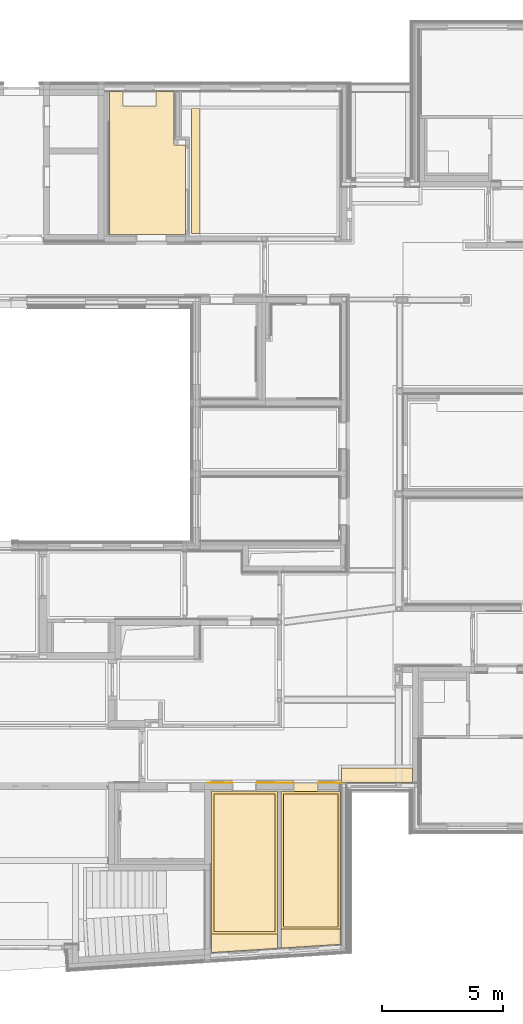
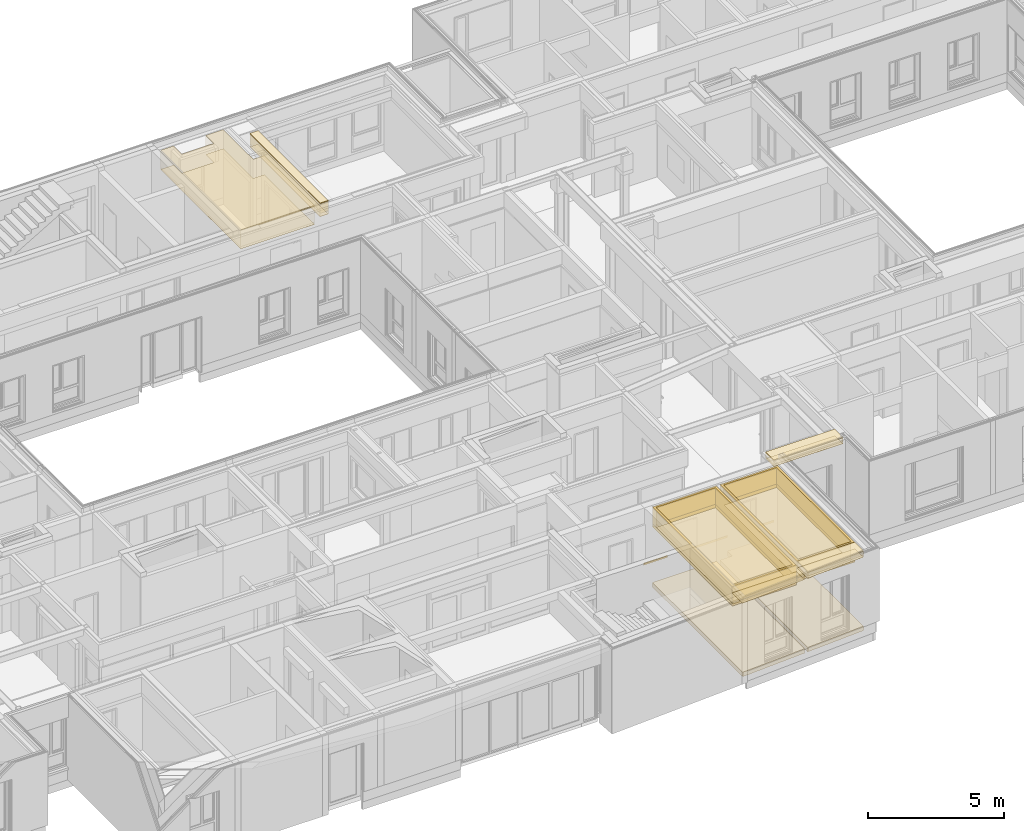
# One storey, part 177 of 207: 39 coverings.
"""IFC4 building model written with IfcOpenShell, lengths in metres."""

from ifc_helpers import new_model, entity, si_unit, converted_unit, derived_unit, frame, frame_2d, origin, origin_with_axes, place, context, subcontext, project, spatial, polyline, rectangle, outline, extrude, material, layer, layer_set, layer_usage, element, save


model = new_model("IFC4")

# Units and contexts
model_context = context("Model", 3, precision=1e-05, world=origin())
body_context = subcontext(model_context, "Body", "Model", "MODEL_VIEW")
ifc_project = project(units=[si_unit("LENGTHUNIT", "METRE"), si_unit("AREAUNIT", "SQUARE_METRE"), si_unit("VOLUMEUNIT", "CUBIC_METRE"), si_unit("MASSUNIT", "GRAM", prefix="KILO"), converted_unit("PLANEANGLEUNIT", "DEGREE", entity("IfcPlaneAngleMeasure", 0.0174532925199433), si_unit("PLANEANGLEUNIT", "RADIAN"), dimensions=[0, 0, 0, 0, 0, 0, 0]), derived_unit("THERMALTRANSMITTANCEUNIT", [(si_unit("POWERUNIT", "WATT"), 1), (si_unit("THERMODYNAMICTEMPERATUREUNIT", "KELVIN"), -1), (si_unit("LENGTHUNIT", "METRE"), -2)]), derived_unit("VOLUMETRICFLOWRATEUNIT", [(si_unit("LENGTHUNIT", "METRE"), 3), (converted_unit("TIMEUNIT", "hour", entity("IfcTimeMeasure", 3600.0), si_unit("TIMEUNIT", "SECOND"), dimensions=[0, 0, 1, 0, 0, 0, 0]), -1), (si_unit("LENGTHUNIT", "METRE"), -1)])], contexts=[model_context])

# Site, building, storey, space
site_placement = place(None, origin())
site = spatial("IfcSite", under=ifc_project, at=site_placement, Name="Psychiatrie Neubau Wunstorf", CompositionType="ELEMENT")
building_placement = place(site_placement, origin())
building = spatial("IfcBuilding", under=site, at=building_placement, Name="Neubau H2 Stationsgebäude", CompositionType="ELEMENT")
storey_placement = place(building_placement, frame((0.0, 0.0, -0.2)))
storey = spatial("IfcBuildingStorey", under=building, at=storey_placement, Name="H2 Ebene 0", CompositionType="ELEMENT", Elevation=-0.2)
space_1_placement = place(storey_placement, frame((59.7893138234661, 0.53600244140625, 0.0)))
space_1 = spatial("IfcSpace", under=storey, at=space_1_placement, Name="WUN-H2-E00-F07", CompositionType="ELEMENT")

# Coverings
ifc_material_1 = material(Name="97")
ifc_layer_1 = layer(ifc_material_1, 0.001)
ifc_layer_set_1 = layer_set([ifc_layer_1])
ifc_layer_usage_1 = layer_usage(ifc_layer_set_1, "AXIS3", "POSITIVE", 0.0)
covering_1_placement = place(space_1_placement, frame((2.5954798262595, 0.0, 0.8)))
element("IfcCovering", 1, at=covering_1_placement, inside=space_1, material=ifc_layer_usage_1, Name="Handlauf", PredefinedType="CLADDING", context=body_context, shape_type="SweptSolid", body=[
    extrude(rectangle(XDim=0.965, YDim=0.1, at=frame_2d((-0.4825, 0.05), x_axis=(-1.0, -1.17810194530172e-16))), frame((5.51520635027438, 0.0, 0.1), z_axis=(-8.71795439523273e-15, 1.0, 0.0), x_axis=(1.0, 8.71795439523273e-15, 0.0)), (0.0, 0.0, 1.0), 0.001),
    extrude(rectangle(XDim=0.1, YDim=0.99943192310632, at=frame_2d((-0.499715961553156, -0.05), x_axis=(7.27595761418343e-14, -1.0))), frame((0.999431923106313, 0.0, 0.0), z_axis=(-8.70198648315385e-15, 1.0, 5.68434188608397e-16), x_axis=(1.0, 8.70198648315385e-15, 0.0)), (0.0, 0.0, 1.0), 0.001),
    extrude(rectangle(XDim=0.1, YDim=1.53077442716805, at=frame_2d((-0.765387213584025, -0.05), x_axis=(0.0, -1.0))), frame((3.54020635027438, 0.0, 0.0), z_axis=(-8.72643493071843e-15, 1.0, -5.68434188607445e-16), x_axis=(1.0, 8.72643493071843e-15, 0.0)), (0.0, 0.0, 1.0), 0.001),
])
ifc_material_2 = material()
ifc_layer_2 = layer(ifc_material_2, 0.036)
ifc_layer_set_2 = layer_set([ifc_layer_2])
ifc_layer_usage_2 = layer_usage(ifc_layer_set_2, "AXIS3", "POSITIVE", 0.0)
covering_2_placement = place(space_1_placement, frame((8.11068617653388, 0.0, 3.6)))
element("IfcCovering", 2, at=covering_2_placement, inside=space_1, material=ifc_layer_usage_2, Name="Gipsfaserplatten 2-lagig (BSK)", PredefinedType="CEILING", context=body_context, shape_type="SweptSolid", body=[
    extrude(rectangle(XDim=2.93549999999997, YDim=0.598997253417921, at=frame_2d((1.46774999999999, 0.29949862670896), x_axis=(1.0, 0.0))), frame((0.0, 0.598997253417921, 0.0), z_axis=(0.0, 0.0, -1.0), x_axis=(1.0, 0.0, 0.0)), (0.0, 0.0, 1.0), 0.036),
])
ifc_material_3 = material(Name="Installationshöhe")
ifc_layer_3 = layer(ifc_material_3, 0.164)
ifc_layer_set_3 = layer_set([ifc_layer_3])
ifc_layer_usage_3 = layer_usage(ifc_layer_set_3, "AXIS3", "POSITIVE", 0.0)
covering_3_placement = place(space_1_placement, frame((8.11068617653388, 0.0, 3.564)))
element("IfcCovering", 3, at=covering_3_placement, inside=space_1, material=ifc_layer_usage_3, Name="Gipsfaserplatten 2-lagig (BSK)", PredefinedType="CEILING", context=body_context, shape_type="SweptSolid", body=[
    extrude(rectangle(XDim=2.93549999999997, YDim=0.598997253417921, at=frame_2d((1.46774999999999, 0.29949862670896), x_axis=(1.0, 0.0))), frame((0.0, 0.598997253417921, 0.0), z_axis=(0.0, 0.0, -1.0), x_axis=(1.0, 0.0, 0.0)), (0.0, 0.0, 1.0), 0.164),
])
ifc_material_4 = material(Name="A1")
ifc_layer_4 = layer(ifc_material_4, 0.1)
ifc_layer_set_4 = layer_set([ifc_layer_4])
ifc_layer_usage_4 = layer_usage(ifc_layer_set_4, "AXIS3", "POSITIVE", 0.0)
covering_4_placement = place(space_1_placement, frame((8.11068617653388, 0.0, 3.4)))
element("IfcCovering", 4, at=covering_4_placement, inside=space_1, material=ifc_layer_usage_4, Name="Gipsfaserplatten 2-lagig (BSK)", PredefinedType="CEILING", context=body_context, shape_type="SweptSolid", body=[
    extrude(rectangle(XDim=2.93549999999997, YDim=0.598997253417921, at=frame_2d((1.46774999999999, 0.29949862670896), x_axis=(1.0, 0.0))), frame((0.0, 0.598997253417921, 0.0), z_axis=(0.0, 0.0, -1.0), x_axis=(1.0, 0.0, 0.0)), (0.0, 0.0, 1.0), 0.1),
])
ifc_material_5 = material(Name="D1")
ifc_layer_5 = layer(ifc_material_5, 0.001)
ifc_layer_set_5 = layer_set([ifc_layer_5])
ifc_layer_usage_5 = layer_usage(ifc_layer_set_5, "AXIS3", "POSITIVE", 0.0)
covering_5_placement = place(space_1_placement, frame((8.11068617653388, 0.0, 3.3)))
element("IfcCovering", 5, at=covering_5_placement, inside=space_1, material=ifc_layer_usage_5, Name="Gipsfaserplatten 2-lagig (BSK)", PredefinedType="CEILING", context=body_context, shape_type="SweptSolid", body=[
    extrude(rectangle(XDim=2.93549999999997, YDim=0.598997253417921, at=frame_2d((1.46774999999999, 0.29949862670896), x_axis=(1.0, 0.0))), frame((0.0, 0.598997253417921, 0.0), z_axis=(0.0, 0.0, -1.0), x_axis=(1.0, 0.0, 0.0)), (0.0, 0.0, 1.0), 0.001),
])

# Space
space_2_placement = place(storey_placement, frame((65.4, -6.29761267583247, 0.0)))
space_2 = spatial("IfcSpace", under=storey, at=space_2_placement, Name="WUN-H2-E00-060", CompositionType="ELEMENT")

# Coverings
ifc_material_6 = material(Name="Ku1")
ifc_layer_6 = layer(ifc_material_6, 0.2)
ifc_layer_set_6 = layer_set([ifc_layer_6])
ifc_layer_usage_6 = layer_usage(ifc_layer_set_6, "AXIS3", "POSITIVE", 0.0)
covering_6_placement = place(space_2_placement, origin())
element("IfcCovering", 6, at=covering_6_placement, inside=space_2, material=ifc_layer_usage_6, Name="PVC Bahnenware Holzoptik", PredefinedType="FLOORING", context=body_context, shape_type="SweptSolid", body=[
    extrude(rectangle(XDim=0.365, YDim=1.01, at=frame_2d((0.505, -0.1825), x_axis=(0.0, -1.0))), frame((0.525000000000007, 6.83361511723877, 0.0), z_axis=(0.0, 0.0, 1.0), x_axis=(1.0, 0.0, 0.0)), (0.0, 0.0, 1.0), 0.2),
    extrude(outline(polyline([(2.45250000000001, 6.46861511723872), (0.0, 6.46861511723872), (0.0, 0.0), (2.45250000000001, 0.157496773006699), (2.45250000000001, 6.46861511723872)])), origin_with_axes(), (0.0, 0.0, 1.0), 0.2),
])
ifc_material_7 = material()
ifc_layer_7 = layer(ifc_material_7, 0.036)
ifc_layer_set_7 = layer_set([ifc_layer_7])
ifc_layer_usage_7 = layer_usage(ifc_layer_set_7, "AXIS3", "POSITIVE", 0.0)
covering_7_placement = place(space_2_placement, frame((0.100000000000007, 0.883612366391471, 3.6)))
element("IfcCovering", 7, at=covering_7_placement, inside=space_2, material=ifc_layer_usage_7, Name="Gipsfaserplatten 2-lagig (BSK)", PredefinedType="CEILING", context=body_context, shape_type="SweptSolid", body=[
    extrude(rectangle(XDim=5.48500275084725, YDim=2.25250000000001, at=frame_2d((1.12625000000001, -2.74250137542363), x_axis=(0.0, -1.0))), frame((0.0, 0.0, 0.0), z_axis=(0.0, 0.0, -1.0), x_axis=(1.0, 0.0, 0.0)), (0.0, 0.0, 1.0), 0.036),
])
ifc_material_8 = material(Name="Installationshöhe")
ifc_layer_8 = layer(ifc_material_8, 0.714)
ifc_layer_set_8 = layer_set([ifc_layer_8])
ifc_layer_usage_8 = layer_usage(ifc_layer_set_8, "AXIS3", "POSITIVE", 0.0)
covering_8_placement = place(space_2_placement, frame((0.100000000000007, 0.883612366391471, 3.564)))
element("IfcCovering", 8, at=covering_8_placement, inside=space_2, material=ifc_layer_usage_8, Name="Gipsfaserplatten 2-lagig (BSK)", PredefinedType="CEILING", context=body_context, shape_type="SweptSolid", body=[
    extrude(rectangle(XDim=5.48500275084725, YDim=2.25250000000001, at=frame_2d((1.12625000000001, -2.74250137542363), x_axis=(0.0, -1.0))), frame((0.0, 0.0, 0.0), z_axis=(0.0, 0.0, -1.0), x_axis=(1.0, 0.0, 0.0)), (0.0, 0.0, 1.0), 0.714),
])
ifc_material_9 = material(Name="Aa")
ifc_layer_9 = layer(ifc_material_9, 0.15)
ifc_layer_set_9 = layer_set([ifc_layer_9])
ifc_layer_usage_9 = layer_usage(ifc_layer_set_9, "AXIS3", "POSITIVE", 0.0)
covering_9_placement = place(space_2_placement, frame((0.100000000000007, 0.883612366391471, 2.85)))
element("IfcCovering", 9, at=covering_9_placement, inside=space_2, material=ifc_layer_usage_9, Name="Akustikdecke gelocht", PredefinedType="CEILING", context=body_context, shape_type="SweptSolid", body=[
    extrude(rectangle(XDim=5.48500275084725, YDim=2.25250000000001, at=frame_2d((1.12625000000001, -2.74250137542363), x_axis=(0.0, -1.0))), frame((0.0, 0.0, 0.0), z_axis=(0.0, 0.0, -1.0), x_axis=(1.0, 0.0, 0.0)), (0.0, 0.0, 1.0), 0.15),
])
ifc_material_10 = material(Name="D1")
ifc_layer_10 = layer(ifc_material_10, 0.001)
ifc_layer_set_10 = layer_set([ifc_layer_10])
ifc_layer_usage_10 = layer_usage(ifc_layer_set_10, "AXIS3", "POSITIVE", 0.0)
covering_10_placement = place(space_2_placement, frame((0.100000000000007, 0.883612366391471, 2.7)))
element("IfcCovering", 10, at=covering_10_placement, inside=space_2, material=ifc_layer_usage_10, Name="Gipsfaserplatten 2-lagig (BSK)", PredefinedType="CEILING", context=body_context, shape_type="SweptSolid", body=[
    extrude(rectangle(XDim=5.48500275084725, YDim=2.25250000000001, at=frame_2d((1.12625000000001, -2.74250137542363), x_axis=(0.0, -1.0))), frame((0.0, 0.0, 0.0), z_axis=(0.0, 0.0, -1.0), x_axis=(1.0, 0.0, 0.0)), (0.0, 0.0, 1.0), 0.001),
])
ifc_material_11 = material()
ifc_layer_11 = layer(ifc_material_11, 0.036)
ifc_layer_set_11 = layer_set([ifc_layer_11])
ifc_layer_usage_11 = layer_usage(ifc_layer_set_11, "AXIS3", "POSITIVE", 0.0)
covering_11_placement = place(space_2_placement, frame((0.0, 0.783612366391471, 3.6)))
element("IfcCovering", 11, at=covering_11_placement, inside=space_2, material=ifc_layer_usage_11, Name="Gipsfaserplatten 2-lagig (BSK)", PredefinedType="CEILING", context=body_context, shape_type="SweptSolid", body=[
    extrude(outline(polyline([(2.45250000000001, 5.68500275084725), (0.0, 5.68500275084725), (0.0, 0.0), (2.45250000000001, 0.0), (2.45250000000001, 5.68500275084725)]), holes=[polyline([(0.1, 5.58500275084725), (2.35250000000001, 5.58500275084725), (2.35250000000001, 0.1), (0.1, 0.1), (0.1, 5.58500275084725)])]), frame((0.0, 5.68500275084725, 0.0), z_axis=(0.0, 0.0, -1.0), x_axis=(1.0, 0.0, 0.0)), (0.0, 0.0, 1.0), 0.036),
])
ifc_material_12 = material(Name="Installationshöhe")
ifc_layer_12 = layer(ifc_material_12, 0.714)
ifc_layer_set_12 = layer_set([ifc_layer_12])
ifc_layer_usage_12 = layer_usage(ifc_layer_set_12, "AXIS3", "POSITIVE", 0.0)
covering_12_placement = place(space_2_placement, frame((0.0, 0.783612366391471, 3.564)))
element("IfcCovering", 12, at=covering_12_placement, inside=space_2, material=ifc_layer_usage_12, Name="Gipsfaserplatten 2-lagig (BSK)", PredefinedType="CEILING", context=body_context, shape_type="SweptSolid", body=[
    extrude(outline(polyline([(2.45250000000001, 5.68500275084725), (0.0, 5.68500275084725), (0.0, 0.0), (2.45250000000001, 0.0), (2.45250000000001, 5.68500275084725)]), holes=[polyline([(0.1, 5.58500275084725), (2.35250000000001, 5.58500275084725), (2.35250000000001, 0.1), (0.1, 0.1), (0.1, 5.58500275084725)])]), frame((0.0, 5.68500275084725, 0.0), z_axis=(0.0, 0.0, -1.0), x_axis=(1.0, 0.0, 0.0)), (0.0, 0.0, 1.0), 0.714),
])
ifc_material_13 = material(Name="A1")
ifc_layer_13 = layer(ifc_material_13, 0.15)
ifc_layer_set_13 = layer_set([ifc_layer_13])
ifc_layer_usage_13 = layer_usage(ifc_layer_set_13, "AXIS3", "POSITIVE", 0.0)
covering_13_placement = place(space_2_placement, frame((0.0, 0.783612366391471, 2.85)))
element("IfcCovering", 13, at=covering_13_placement, inside=space_2, material=ifc_layer_usage_13, Name="Gipsfaserplatten 2-lagig (BSK)", PredefinedType="CEILING", context=body_context, shape_type="SweptSolid", body=[
    extrude(outline(polyline([(2.45250000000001, 5.68500275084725), (0.0, 5.68500275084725), (0.0, 0.0), (2.45250000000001, 0.0), (2.45250000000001, 5.68500275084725)]), holes=[polyline([(0.1, 5.58500275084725), (2.35250000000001, 5.58500275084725), (2.35250000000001, 0.1), (0.1, 0.1), (0.1, 5.58500275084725)])]), frame((0.0, 5.68500275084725, 0.0), z_axis=(0.0, 0.0, -1.0), x_axis=(1.0, 0.0, 0.0)), (0.0, 0.0, 1.0), 0.15),
])
ifc_material_14 = material(Name="D1")
ifc_layer_14 = layer(ifc_material_14, 0.001)
ifc_layer_set_14 = layer_set([ifc_layer_14])
ifc_layer_usage_14 = layer_usage(ifc_layer_set_14, "AXIS3", "POSITIVE", 0.0)
covering_14_placement = place(space_2_placement, frame((0.0, 0.783612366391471, 2.7)))
element("IfcCovering", 14, at=covering_14_placement, inside=space_2, material=ifc_layer_usage_14, Name="Gipsfaserplatten 2-lagig (BSK)", PredefinedType="CEILING", context=body_context, shape_type="SweptSolid", body=[
    extrude(outline(polyline([(2.45250000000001, 5.68500275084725), (0.0, 5.68500275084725), (0.0, 0.0), (2.45250000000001, 0.0), (2.45250000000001, 5.68500275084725)]), holes=[polyline([(0.1, 5.58500275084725), (2.35250000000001, 5.58500275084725), (2.35250000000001, 0.1), (0.1, 0.1), (0.1, 5.58500275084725)])]), frame((0.0, 5.68500275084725, 0.0), z_axis=(0.0, 0.0, -1.0), x_axis=(1.0, 0.0, 0.0)), (0.0, 0.0, 1.0), 0.001),
])
ifc_material_15 = material()
ifc_layer_15 = layer(ifc_material_15, 0.036)
ifc_layer_set_15 = layer_set([ifc_layer_15])
ifc_layer_usage_15 = layer_usage(ifc_layer_set_15, "AXIS3", "POSITIVE", 0.0)
covering_15_placement = place(space_2_placement, frame((0.0, 0.0, 3.6)))
element("IfcCovering", 15, at=covering_15_placement, inside=space_2, material=ifc_layer_usage_15, Name="Gipsfaserplatten 2-lagig (BSK)", PredefinedType="CEILING", context=body_context, shape_type="SweptSolid", body=[
    extrude(outline(polyline([(2.45250000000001, 0.0), (2.45250000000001, 0.626115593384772), (0.0, 0.783612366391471), (0.0, 0.0), (2.45250000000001, 0.0)])), frame((0.0, 0.783612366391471, 0.0), z_axis=(0.0, 0.0, -1.0), x_axis=(1.0, 0.0, 0.0)), (0.0, 0.0, 1.0), 0.036),
])
ifc_material_16 = material(Name="Installationshöhe")
ifc_layer_16 = layer(ifc_material_16, 0.164)
ifc_layer_set_16 = layer_set([ifc_layer_16])
ifc_layer_usage_16 = layer_usage(ifc_layer_set_16, "AXIS3", "POSITIVE", 0.0)
covering_16_placement = place(space_2_placement, frame((0.0, 0.0, 3.564)))
element("IfcCovering", 16, at=covering_16_placement, inside=space_2, material=ifc_layer_usage_16, Name="Gipsfaserplatten 2-lagig (BSK)", PredefinedType="CEILING", context=body_context, shape_type="SweptSolid", body=[
    extrude(outline(polyline([(2.45250000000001, 0.0), (2.45250000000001, 0.626115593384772), (0.0, 0.783612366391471), (0.0, 0.0), (2.45250000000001, 0.0)])), frame((0.0, 0.783612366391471, 0.0), z_axis=(0.0, 0.0, -1.0), x_axis=(1.0, 0.0, 0.0)), (0.0, 0.0, 1.0), 0.164),
])
ifc_material_17 = material(Name="A1")
ifc_layer_17 = layer(ifc_material_17, 0.1)
ifc_layer_set_17 = layer_set([ifc_layer_17])
ifc_layer_usage_17 = layer_usage(ifc_layer_set_17, "AXIS3", "POSITIVE", 0.0)
covering_17_placement = place(space_2_placement, frame((0.0, 0.0, 3.4)))
element("IfcCovering", 17, at=covering_17_placement, inside=space_2, material=ifc_layer_usage_17, Name="Gipsfaserplatten 2-lagig (BSK)", PredefinedType="CEILING", context=body_context, shape_type="SweptSolid", body=[
    extrude(outline(polyline([(2.45250000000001, 0.0), (2.45250000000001, 0.626115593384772), (0.0, 0.783612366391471), (0.0, 0.0), (2.45250000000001, 0.0)])), frame((0.0, 0.783612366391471, 0.0), z_axis=(0.0, 0.0, -1.0), x_axis=(1.0, 0.0, 0.0)), (0.0, 0.0, 1.0), 0.1),
])
ifc_material_18 = material(Name="D1")
ifc_layer_18 = layer(ifc_material_18, 0.001)
ifc_layer_set_18 = layer_set([ifc_layer_18])
ifc_layer_usage_18 = layer_usage(ifc_layer_set_18, "AXIS3", "POSITIVE", 0.0)
covering_18_placement = place(space_2_placement, frame((0.0, 0.0, 3.3)))
element("IfcCovering", 18, at=covering_18_placement, inside=space_2, material=ifc_layer_usage_18, Name="Gipsfaserplatten 2-lagig (BSK)", PredefinedType="CEILING", context=body_context, shape_type="SweptSolid", body=[
    extrude(outline(polyline([(2.45250000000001, 0.0), (2.45250000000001, 0.626115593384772), (0.0, 0.783612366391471), (0.0, 0.0), (2.45250000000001, 0.0)])), frame((0.0, 0.783612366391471, 0.0), z_axis=(0.0, 0.0, -1.0), x_axis=(1.0, 0.0, 0.0)), (0.0, 0.0, 1.0), 0.001),
])

# Space
space_3_placement = place(storey_placement, frame((62.5297950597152, -6.48192013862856, 0.0)))
space_3 = spatial("IfcSpace", under=storey, at=space_3_placement, Name="WUN-H2-E00-061", CompositionType="ELEMENT")

# Coverings
ifc_material_19 = material(Name="Ku1")
ifc_layer_19 = layer(ifc_material_19, 0.2)
ifc_layer_set_19 = layer_set([ifc_layer_19])
ifc_layer_usage_19 = layer_usage(ifc_layer_set_19, "AXIS3", "POSITIVE", 0.0)
covering_19_placement = place(space_3_placement, origin())
element("IfcCovering", 19, at=covering_19_placement, inside=space_3, material=ifc_layer_usage_19, Name="PVC Bahnenware Holzoptik", PredefinedType="FLOORING", context=body_context, shape_type="SweptSolid", body=[
    extrude(outline(polyline([(0.0, 6.65292258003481), (0.000215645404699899, 0.0), (2.72020494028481, 0.174674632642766), (2.72020494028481, 6.65292258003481), (0.0, 6.65292258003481)])), origin_with_axes(), (0.0, 0.0, 1.0), 0.2),
])
ifc_material_20 = material()
ifc_layer_20 = layer(ifc_material_20, 0.036)
ifc_layer_set_20 = layer_set([ifc_layer_20])
ifc_layer_usage_20 = layer_usage(ifc_layer_set_20, "AXIS3", "POSITIVE", 0.0)
covering_20_placement = place(space_3_placement, frame((0.000190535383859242, 0.0, 3.6)))
element("IfcCovering", 20, at=covering_20_placement, inside=space_3, material=ifc_layer_usage_20, Name="Gipsfaserplatten 2-lagig (BSK)", PredefinedType="CEILING", context=body_context, shape_type="SweptSolid", body=[
    extrude(outline(polyline([(2.51100208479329e-05, 0.774674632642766), (0.0, 0.0), (2.72001440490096, 0.0), (2.72001440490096, 0.6), (2.51100208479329e-05, 0.774674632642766)])), frame((0.0, 0.774674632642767, 0.0), z_axis=(0.0, 0.0, -1.0), x_axis=(1.0, 0.0, 0.0)), (0.0, 0.0, 1.0), 0.036),
])
ifc_material_21 = material(Name="Installationshöhe")
ifc_layer_21 = layer(ifc_material_21, 0.164)
ifc_layer_set_21 = layer_set([ifc_layer_21])
ifc_layer_usage_21 = layer_usage(ifc_layer_set_21, "AXIS3", "POSITIVE", 0.0)
covering_21_placement = place(space_3_placement, frame((0.000190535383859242, 0.0, 3.564)))
element("IfcCovering", 21, at=covering_21_placement, inside=space_3, material=ifc_layer_usage_21, Name="Gipsfaserplatten 2-lagig (BSK)", PredefinedType="CEILING", context=body_context, shape_type="SweptSolid", body=[
    extrude(outline(polyline([(2.51100208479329e-05, 0.774674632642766), (0.0, 0.0), (2.72001440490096, 0.0), (2.72001440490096, 0.6), (2.51100208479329e-05, 0.774674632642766)])), frame((0.0, 0.774674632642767, 0.0), z_axis=(0.0, 0.0, -1.0), x_axis=(1.0, 0.0, 0.0)), (0.0, 0.0, 1.0), 0.164),
])
ifc_material_22 = material(Name="A1")
ifc_layer_22 = layer(ifc_material_22, 0.1)
ifc_layer_set_22 = layer_set([ifc_layer_22])
ifc_layer_usage_22 = layer_usage(ifc_layer_set_22, "AXIS3", "POSITIVE", 0.0)
covering_22_placement = place(space_3_placement, frame((0.000190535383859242, 0.0, 3.4)))
element("IfcCovering", 22, at=covering_22_placement, inside=space_3, material=ifc_layer_usage_22, Name="Gipsfaserplatten 2-lagig (BSK)", PredefinedType="CEILING", context=body_context, shape_type="SweptSolid", body=[
    extrude(outline(polyline([(2.51100208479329e-05, 0.774674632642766), (0.0, 0.0), (2.72001440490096, 0.0), (2.72001440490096, 0.6), (2.51100208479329e-05, 0.774674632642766)])), frame((0.0, 0.774674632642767, 0.0), z_axis=(0.0, 0.0, -1.0), x_axis=(1.0, 0.0, 0.0)), (0.0, 0.0, 1.0), 0.1),
])
ifc_material_23 = material(Name="D1")
ifc_layer_23 = layer(ifc_material_23, 0.001)
ifc_layer_set_23 = layer_set([ifc_layer_23])
ifc_layer_usage_23 = layer_usage(ifc_layer_set_23, "AXIS3", "POSITIVE", 0.0)
covering_23_placement = place(space_3_placement, frame((0.000190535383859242, 0.0, 3.3)))
element("IfcCovering", 23, at=covering_23_placement, inside=space_3, material=ifc_layer_usage_23, Name="Gipsfaserplatten 2-lagig (BSK)", PredefinedType="CEILING", context=body_context, shape_type="SweptSolid", body=[
    extrude(outline(polyline([(2.51100208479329e-05, 0.774674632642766), (0.0, 0.0), (2.72001440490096, 0.0), (2.72001440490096, 0.6), (2.51100208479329e-05, 0.774674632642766)])), frame((0.0, 0.774674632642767, 0.0), z_axis=(0.0, 0.0, -1.0), x_axis=(1.0, 0.0, 0.0)), (0.0, 0.0, 1.0), 0.001),
])
ifc_material_24 = material()
ifc_layer_24 = layer(ifc_material_24, 0.036)
ifc_layer_set_24 = layer_set([ifc_layer_24])
ifc_layer_usage_24 = layer_usage(ifc_layer_set_24, "AXIS3", "POSITIVE", 0.0)
covering_24_placement = place(space_3_placement, frame((0.100000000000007, 0.874674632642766, 3.6)))
element("IfcCovering", 24, at=covering_24_placement, inside=space_3, material=ifc_layer_usage_24, Name="Gipsfaserplatten 2-lagig (BSK)", PredefinedType="CEILING", context=body_context, shape_type="SweptSolid", body=[
    extrude(rectangle(XDim=2.52020494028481, YDim=5.67824794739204, at=frame_2d((1.26010247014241, 2.83912397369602), x_axis=(1.0, 0.0))), frame((0.0, 5.67824794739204, 0.0), z_axis=(0.0, 0.0, -1.0), x_axis=(1.0, 0.0, 0.0)), (0.0, 0.0, 1.0), 0.036),
])
ifc_material_25 = material(Name="Installationshöhe")
ifc_layer_25 = layer(ifc_material_25, 0.714)
ifc_layer_set_25 = layer_set([ifc_layer_25])
ifc_layer_usage_25 = layer_usage(ifc_layer_set_25, "AXIS3", "POSITIVE", 0.0)
covering_25_placement = place(space_3_placement, frame((0.100000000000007, 0.874674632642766, 3.564)))
element("IfcCovering", 25, at=covering_25_placement, inside=space_3, material=ifc_layer_usage_25, Name="Gipsfaserplatten 2-lagig (BSK)", PredefinedType="CEILING", context=body_context, shape_type="SweptSolid", body=[
    extrude(rectangle(XDim=2.52020494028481, YDim=5.67824794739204, at=frame_2d((1.26010247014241, 2.83912397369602), x_axis=(1.0, 0.0))), frame((0.0, 5.67824794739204, 0.0), z_axis=(0.0, 0.0, -1.0), x_axis=(1.0, 0.0, 0.0)), (0.0, 0.0, 1.0), 0.714),
])
ifc_material_26 = material(Name="Aa")
ifc_layer_26 = layer(ifc_material_26, 0.15)
ifc_layer_set_26 = layer_set([ifc_layer_26])
ifc_layer_usage_26 = layer_usage(ifc_layer_set_26, "AXIS3", "POSITIVE", 0.0)
covering_26_placement = place(space_3_placement, frame((0.100000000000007, 0.874674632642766, 2.85)))
element("IfcCovering", 26, at=covering_26_placement, inside=space_3, material=ifc_layer_usage_26, Name="Akustikdecke gelocht", PredefinedType="CEILING", context=body_context, shape_type="SweptSolid", body=[
    extrude(rectangle(XDim=2.52020494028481, YDim=5.67824794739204, at=frame_2d((1.26010247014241, 2.83912397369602), x_axis=(1.0, 0.0))), frame((0.0, 5.67824794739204, 0.0), z_axis=(0.0, 0.0, -1.0), x_axis=(1.0, 0.0, 0.0)), (0.0, 0.0, 1.0), 0.15),
])
ifc_material_27 = material(Name="D1")
ifc_layer_27 = layer(ifc_material_27, 0.001)
ifc_layer_set_27 = layer_set([ifc_layer_27])
ifc_layer_usage_27 = layer_usage(ifc_layer_set_27, "AXIS3", "POSITIVE", 0.0)
covering_27_placement = place(space_3_placement, frame((0.100000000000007, 0.874674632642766, 2.7)))
element("IfcCovering", 27, at=covering_27_placement, inside=space_3, material=ifc_layer_usage_27, Name="Gipsfaserplatten 2-lagig (BSK)", PredefinedType="CEILING", context=body_context, shape_type="SweptSolid", body=[
    extrude(rectangle(XDim=2.52020494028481, YDim=5.67824794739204, at=frame_2d((1.26010247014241, 2.83912397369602), x_axis=(1.0, 0.0))), frame((0.0, 5.67824794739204, 0.0), z_axis=(0.0, 0.0, -1.0), x_axis=(1.0, 0.0, 0.0)), (0.0, 0.0, 1.0), 0.001),
])
ifc_material_28 = material()
ifc_layer_28 = layer(ifc_material_28, 0.036)
ifc_layer_set_28 = layer_set([ifc_layer_28])
ifc_layer_usage_28 = layer_usage(ifc_layer_set_28, "AXIS3", "POSITIVE", 0.0)
covering_28_placement = place(space_3_placement, frame((-1.87326761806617e-06, 0.774674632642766, 3.6)))
element("IfcCovering", 28, at=covering_28_placement, inside=space_3, material=ifc_layer_usage_28, Name="Gipsfaserplatten 2-lagig (BSK)", PredefinedType="CEILING", context=body_context, shape_type="SweptSolid", body=[
    extrude(outline(polyline([(4.6327448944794e-07, 5.87824794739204), (0.0, 0.0), (2.72020681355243, 0.0), (2.72020681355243, 5.87824794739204), (4.6327448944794e-07, 5.87824794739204)]), holes=[polyline([(0.100001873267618, 5.77824794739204), (2.62020681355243, 5.77824794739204), (2.62020681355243, 0.1), (0.100001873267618, 0.1), (0.100001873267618, 5.77824794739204)])]), frame((0.0, 5.87824794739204, 0.0), z_axis=(0.0, 0.0, -1.0), x_axis=(1.0, 0.0, 0.0)), (0.0, 0.0, 1.0), 0.036),
])
ifc_material_29 = material(Name="Installationshöhe")
ifc_layer_29 = layer(ifc_material_29, 0.714)
ifc_layer_set_29 = layer_set([ifc_layer_29])
ifc_layer_usage_29 = layer_usage(ifc_layer_set_29, "AXIS3", "POSITIVE", 0.0)
covering_29_placement = place(space_3_placement, frame((-1.87326761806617e-06, 0.774674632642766, 3.564)))
element("IfcCovering", 29, at=covering_29_placement, inside=space_3, material=ifc_layer_usage_29, Name="Gipsfaserplatten 2-lagig (BSK)", PredefinedType="CEILING", context=body_context, shape_type="SweptSolid", body=[
    extrude(outline(polyline([(4.6327448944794e-07, 5.87824794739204), (0.0, 0.0), (2.72020681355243, 0.0), (2.72020681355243, 5.87824794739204), (4.6327448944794e-07, 5.87824794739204)]), holes=[polyline([(0.100001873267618, 5.77824794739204), (2.62020681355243, 5.77824794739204), (2.62020681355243, 0.1), (0.100001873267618, 0.1), (0.100001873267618, 5.77824794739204)])]), frame((0.0, 5.87824794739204, 0.0), z_axis=(0.0, 0.0, -1.0), x_axis=(1.0, 0.0, 0.0)), (0.0, 0.0, 1.0), 0.714),
])
ifc_material_30 = material(Name="A1")
ifc_layer_30 = layer(ifc_material_30, 0.15)
ifc_layer_set_30 = layer_set([ifc_layer_30])
ifc_layer_usage_30 = layer_usage(ifc_layer_set_30, "AXIS3", "POSITIVE", 0.0)
covering_30_placement = place(space_3_placement, frame((-1.87326761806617e-06, 0.774674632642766, 2.85)))
element("IfcCovering", 30, at=covering_30_placement, inside=space_3, material=ifc_layer_usage_30, Name="Gipsfaserplatten 2-lagig (BSK)", PredefinedType="CEILING", context=body_context, shape_type="SweptSolid", body=[
    extrude(outline(polyline([(4.6327448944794e-07, 5.87824794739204), (0.0, 0.0), (2.72020681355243, 0.0), (2.72020681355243, 5.87824794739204), (4.6327448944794e-07, 5.87824794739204)]), holes=[polyline([(0.100001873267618, 5.77824794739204), (2.62020681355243, 5.77824794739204), (2.62020681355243, 0.1), (0.100001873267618, 0.1), (0.100001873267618, 5.77824794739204)])]), frame((0.0, 5.87824794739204, 0.0), z_axis=(0.0, 0.0, -1.0), x_axis=(1.0, 0.0, 0.0)), (0.0, 0.0, 1.0), 0.15),
])
ifc_material_31 = material(Name="D1")
ifc_layer_31 = layer(ifc_material_31, 0.001)
ifc_layer_set_31 = layer_set([ifc_layer_31])
ifc_layer_usage_31 = layer_usage(ifc_layer_set_31, "AXIS3", "POSITIVE", 0.0)
covering_31_placement = place(space_3_placement, frame((-1.87326761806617e-06, 0.774674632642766, 2.7)))
element("IfcCovering", 31, at=covering_31_placement, inside=space_3, material=ifc_layer_usage_31, Name="Gipsfaserplatten 2-lagig (BSK)", PredefinedType="CEILING", context=body_context, shape_type="SweptSolid", body=[
    extrude(outline(polyline([(4.6327448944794e-07, 5.87824794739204), (0.0, 0.0), (2.72020681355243, 0.0), (2.72020681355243, 5.87824794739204), (4.6327448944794e-07, 5.87824794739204)]), holes=[polyline([(0.100001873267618, 5.77824794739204), (2.62020681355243, 5.77824794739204), (2.62020681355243, 0.1), (0.100001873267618, 0.1), (0.100001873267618, 5.77824794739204)])]), frame((0.0, 5.87824794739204, 0.0), z_axis=(0.0, 0.0, -1.0), x_axis=(1.0, 0.0, 0.0)), (0.0, 0.0, 1.0), 0.001),
])

# Space
space_4_placement = place(storey_placement, frame((58.325, 23.1719999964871, 0.0)))
space_4 = spatial("IfcSpace", under=storey, at=space_4_placement, Name="WUN-H2-E00-050", CompositionType="ELEMENT")

# Coverings
ifc_material_32 = material()
ifc_layer_32 = layer(ifc_material_32, 0.036)
ifc_layer_set_32 = layer_set([ifc_layer_32])
ifc_layer_usage_32 = layer_usage(ifc_layer_set_32, "AXIS3", "POSITIVE", 0.0)
covering_32_placement = place(space_4_placement, frame((0.0, 0.0, 3.56)))
element("IfcCovering", 32, at=covering_32_placement, inside=space_4, material=ifc_layer_usage_32, Name="Gipsfaserplatten 2-lagig (BSK)", PredefinedType="CEILING", context=body_context, shape_type="SweptSolid", body=[
    extrude(outline(polyline([(0.0, 0.0), (0.561000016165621, 0.0), (0.561000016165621, 0.599999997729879), (1.91399998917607, 0.599999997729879), (1.91399998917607, 0.0), (2.66399998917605, 0.0), (2.6640000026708, 2.19999999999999), (3.13900000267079, 2.19999999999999), (3.13900000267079, 5.89199969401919), (0.0, 5.89199969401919), (0.0, 0.0)])), frame((0.0, 5.89199969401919, 0.0), z_axis=(0.0, 0.0, -1.0), x_axis=(1.0, 0.0, 0.0)), (0.0, 0.0, 1.0), 0.036),
])
ifc_material_33 = material(Name="Installationshöhe")
ifc_layer_33 = layer(ifc_material_33, 0.724)
ifc_layer_set_33 = layer_set([ifc_layer_33])
ifc_layer_usage_33 = layer_usage(ifc_layer_set_33, "AXIS3", "POSITIVE", 0.0)
covering_33_placement = place(space_4_placement, frame((0.0, 0.0, 3.524)))
element("IfcCovering", 33, at=covering_33_placement, inside=space_4, material=ifc_layer_usage_33, Name="Gipsfaserplatten 2-lagig (BSK)", PredefinedType="CEILING", context=body_context, shape_type="SweptSolid", body=[
    extrude(outline(polyline([(0.0, 0.0), (0.561000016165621, 0.0), (0.561000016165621, 0.599999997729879), (1.91399998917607, 0.599999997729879), (1.91399998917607, 0.0), (2.66399998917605, 0.0), (2.6640000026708, 2.19999999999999), (3.13900000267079, 2.19999999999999), (3.13900000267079, 5.89199969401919), (0.0, 5.89199969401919), (0.0, 0.0)])), frame((0.0, 5.89199969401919, 0.0), z_axis=(0.0, 0.0, -1.0), x_axis=(1.0, 0.0, 0.0)), (0.0, 0.0, 1.0), 0.724),
])
ifc_material_34 = material(Name="A1")
ifc_layer_34 = layer(ifc_material_34, 0.1)
ifc_layer_set_34 = layer_set([ifc_layer_34])
ifc_layer_usage_34 = layer_usage(ifc_layer_set_34, "AXIS3", "POSITIVE", 0.0)
covering_34_placement = place(space_4_placement, frame((0.0, 0.0, 2.8)))
element("IfcCovering", 34, at=covering_34_placement, inside=space_4, material=ifc_layer_usage_34, Name="Gipsfaserplatten 2-lagig (BSK)", PredefinedType="CEILING", context=body_context, shape_type="SweptSolid", body=[
    extrude(outline(polyline([(0.0, 0.0), (0.561000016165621, 0.0), (0.561000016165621, 0.599999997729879), (1.91399998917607, 0.599999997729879), (1.91399998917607, 0.0), (2.66399998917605, 0.0), (2.6640000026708, 2.19999999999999), (3.13900000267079, 2.19999999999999), (3.13900000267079, 5.89199969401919), (0.0, 5.89199969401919), (0.0, 0.0)])), frame((0.0, 5.89199969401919, 0.0), z_axis=(0.0, 0.0, -1.0), x_axis=(1.0, 0.0, 0.0)), (0.0, 0.0, 1.0), 0.1),
])
ifc_material_35 = material(Name="D1")
ifc_layer_35 = layer(ifc_material_35, 0.001)
ifc_layer_set_35 = layer_set([ifc_layer_35])
ifc_layer_usage_35 = layer_usage(ifc_layer_set_35, "AXIS3", "POSITIVE", 0.0)
covering_35_placement = place(space_4_placement, frame((0.0, 0.0, 2.7)))
element("IfcCovering", 35, at=covering_35_placement, inside=space_4, material=ifc_layer_usage_35, Name="Gipsfaserplatten 2-lagig (BSK)", PredefinedType="CEILING", context=body_context, shape_type="SweptSolid", body=[
    extrude(outline(polyline([(0.0, 0.0), (0.561000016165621, 0.0), (0.561000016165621, 0.599999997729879), (1.91399998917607, 0.599999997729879), (1.91399998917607, 0.0), (2.66399998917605, 0.0), (2.6640000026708, 2.19999999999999), (3.13900000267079, 2.19999999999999), (3.13900000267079, 5.89199969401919), (0.0, 5.89199969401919), (0.0, 0.0)])), frame((0.0, 5.89199969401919, 0.0), z_axis=(0.0, 0.0, -1.0), x_axis=(1.0, 0.0, 0.0)), (0.0, 0.0, 1.0), 0.001),
])

# Space
space_5_placement = place(storey_placement, frame((61.289, 23.0959999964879, 0.0)))
space_5 = spatial("IfcSpace", under=storey, at=space_5_placement, Name="WUN-H2-E00-055", CompositionType="ELEMENT")

# Coverings
ifc_material_36 = material()
ifc_layer_36 = layer(ifc_material_36, 0.036)
ifc_layer_set_36 = layer_set([ifc_layer_36])
ifc_layer_usage_36 = layer_usage(ifc_layer_set_36, "AXIS3", "POSITIVE", 0.0)
covering_36_placement = place(space_5_placement, frame((0.424999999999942, 0.0999999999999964, 3.56)))
element("IfcCovering", 36, at=covering_36_placement, inside=space_5, material=ifc_layer_usage_36, Name="Gipsfaserplatten 2-lagig (BSK)", PredefinedType="CEILING", context=body_context, shape_type="SweptSolid", body=[
    extrude(rectangle(XDim=5.1679996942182, YDim=0.348500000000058, at=frame_2d((0.174250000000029, -2.5839998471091), x_axis=(0.0, -1.0))), frame((0.0, 0.0, 0.0), z_axis=(0.0, 0.0, -1.0), x_axis=(1.0, 0.0, 0.0)), (0.0, 0.0, 1.0), 0.036),
])
ifc_material_37 = material(Name="Installationshöhe")
ifc_layer_37 = layer(ifc_material_37, 0.424)
ifc_layer_set_37 = layer_set([ifc_layer_37])
ifc_layer_usage_37 = layer_usage(ifc_layer_set_37, "AXIS3", "POSITIVE", 0.0)
covering_37_placement = place(space_5_placement, frame((0.424999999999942, 0.0999999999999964, 3.524)))
element("IfcCovering", 37, at=covering_37_placement, inside=space_5, material=ifc_layer_usage_37, Name="Gipsfaserplatten 2-lagig (BSK)", PredefinedType="CEILING", context=body_context, shape_type="SweptSolid", body=[
    extrude(rectangle(XDim=5.1679996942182, YDim=0.348500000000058, at=frame_2d((0.174250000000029, -2.5839998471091), x_axis=(0.0, -1.0))), frame((0.0, 0.0, 0.0), z_axis=(0.0, 0.0, -1.0), x_axis=(1.0, 0.0, 0.0)), (0.0, 0.0, 1.0), 0.424),
])
ifc_material_38 = material(Name="Aa")
ifc_layer_38 = layer(ifc_material_38, 0.15)
ifc_layer_set_38 = layer_set([ifc_layer_38])
ifc_layer_usage_38 = layer_usage(ifc_layer_set_38, "AXIS3", "POSITIVE", 0.0)
covering_38_placement = place(space_5_placement, frame((0.424999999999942, 0.0999999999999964, 3.1)))
element("IfcCovering", 38, at=covering_38_placement, inside=space_5, material=ifc_layer_usage_38, Name="Gipsfaserplatten 2-lagig (BSK)", PredefinedType="CEILING", context=body_context, shape_type="SweptSolid", body=[
    extrude(rectangle(XDim=5.1679996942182, YDim=0.348500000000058, at=frame_2d((0.174250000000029, -2.5839998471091), x_axis=(0.0, -1.0))), frame((0.0, 0.0, 0.0), z_axis=(0.0, 0.0, -1.0), x_axis=(1.0, 0.0, 0.0)), (0.0, 0.0, 1.0), 0.15),
])
ifc_material_39 = material(Name="D1")
ifc_layer_39 = layer(ifc_material_39, 0.001)
ifc_layer_set_39 = layer_set([ifc_layer_39])
ifc_layer_usage_39 = layer_usage(ifc_layer_set_39, "AXIS3", "POSITIVE", 0.0)
covering_39_placement = place(space_5_placement, frame((0.424999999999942, 0.0999999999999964, 2.95)))
element("IfcCovering", 39, at=covering_39_placement, inside=space_5, material=ifc_layer_usage_39, Name="Gipsfaserplatten 2-lagig (BSK)", PredefinedType="CEILING", context=body_context, shape_type="SweptSolid", body=[
    extrude(rectangle(XDim=5.1679996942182, YDim=0.348500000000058, at=frame_2d((0.174250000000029, -2.5839998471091), x_axis=(0.0, -1.0))), frame((0.0, 0.0, 0.0), z_axis=(0.0, 0.0, -1.0), x_axis=(1.0, 0.0, 0.0)), (0.0, 0.0, 1.0), 0.001),
])

save(model, "model.ifc")
